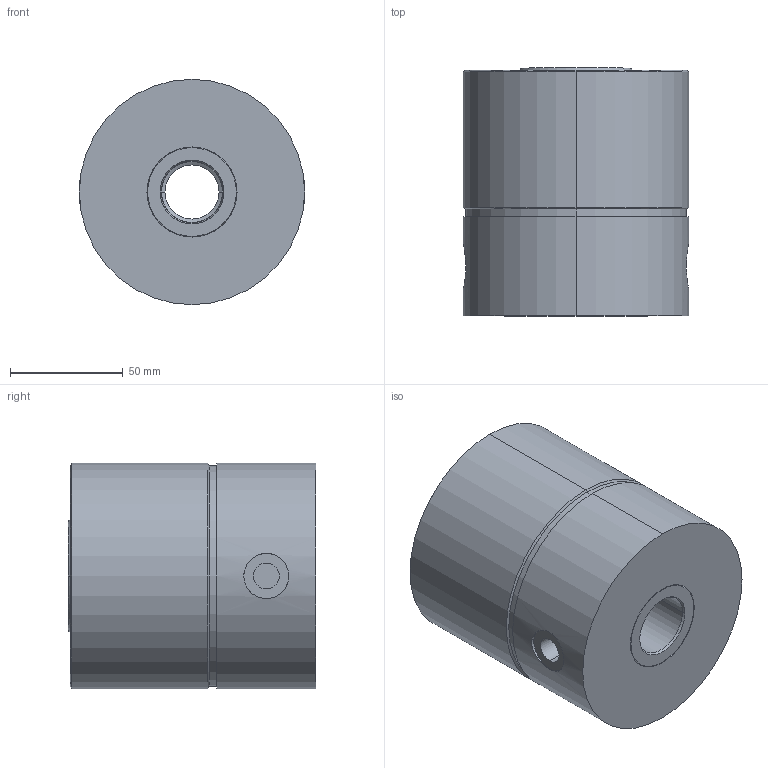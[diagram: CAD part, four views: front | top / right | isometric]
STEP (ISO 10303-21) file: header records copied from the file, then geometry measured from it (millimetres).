
FILE_DESCRIPTION (( 'STEP AP203' ), '1' );
FILE_NAME ('GERMA_Hohlkolbenzylinder_82-65-2-1.STEP', '2016-01-03T17:17:25', ( '' ), ( '' ), 'SwSTEP 2.0', 'SolidWorks 2015', '' );
FILE_SCHEMA (( 'CONFIG_CONTROL_DESIGN' ));
Length unit declared in the file: millimetre
Products named in the file (3): Gehaeuse 82-65-2_Geh„use; Kolben 82-65-X-1_Kolben; GERMA_Hohlkolbenzylinder_82-65-2-1
Assembly tree (2 placements, depth 2):
  GERMA_Hohlkolbenzylinder_82-65-2-1
    Gehaeuse 82-65-2_Geh„use
    Kolben 82-65-X-1_Kolben
Bounding box: 100 x 110 x 100 mm (x, y, z)
Volume: 716513.4 mm3; surface area: 110503.6 mm2
Topology: 2 solids, 2 shells, 78 faces, 160 edges, 98 vertices
Faces by surface type: cylinder 38, cone 22, plane 18
Entity records: 2543 total; most frequent: CARTESIAN_POINT 527, DIRECTION 410, ORIENTED_EDGE 312, AXIS2_PLACEMENT_3D 175, EDGE_CURVE 156, VERTEX_POINT 98, EDGE_LOOP 98, CIRCLE 92
